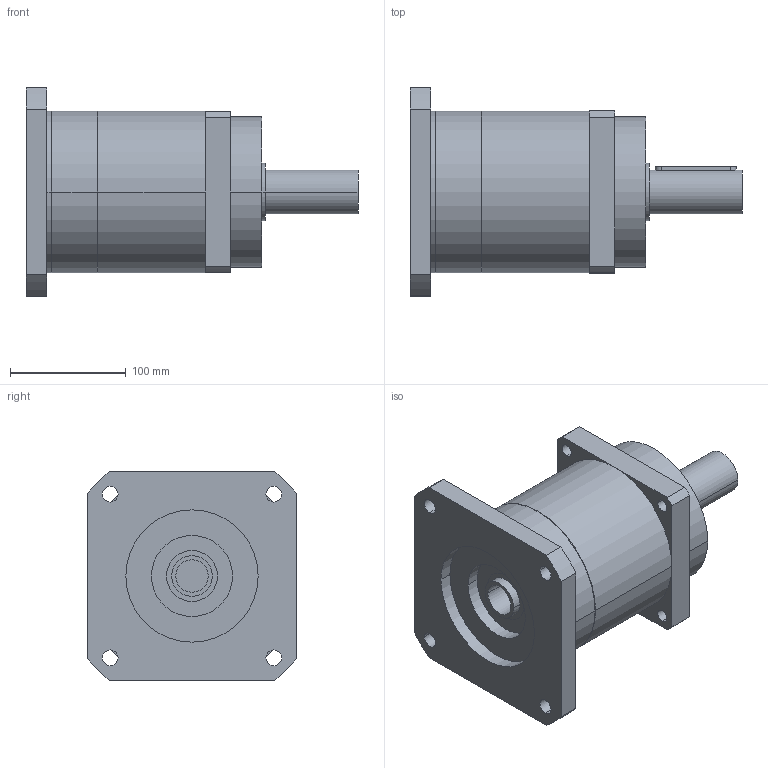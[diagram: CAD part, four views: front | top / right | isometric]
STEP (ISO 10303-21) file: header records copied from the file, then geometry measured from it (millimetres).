
FILE_DESCRIPTION(('CoCreate Modeling STEP Export'),'2;1');
FILE_NAME('GPR150_ig-3-4-5-7_38_B5_28_P09.stp','2014-08-19T16:42:44',(''),(''),'CoCreate Modeling STEP processor for AP214 (Solid Model)','CoCreate Modeling 16.00C 25-Feb-2009 (C) Parametric Technology GmbH','');
FILE_SCHEMA(('AUTOMOTIVE_DESIGN { 1 0 10303 214 1 1 1 1 }'));
Length unit declared in the file: millimetre
Products named in the file (2): GPR150_ig-3-4-5-7_38_B5_28_P09
Assembly tree (1 placements, depth 2):
  GPR150_ig-3-4-5-7_38_B5_28_P09
    GPR150_ig-3-4-5-7_38_B5_28_P09
Bounding box: 287 x 180 x 180 mm (x, y, z)
Volume: 3352614.5 mm3; surface area: 196927.8 mm2
Topology: 1 solids, 1 shells, 84 faces, 227 edges, 155 vertices
Faces by surface type: cylinder 50, plane 28, cone 6
Entity records: 2395 total; most frequent: ORIENTED_EDGE 450, CARTESIAN_POINT 442, DIRECTION 340, EDGE_CURVE 225, VERTEX_POINT 155, AXIS2_PLACEMENT_3D 125, EDGE_LOOP 112, VECTOR 90
